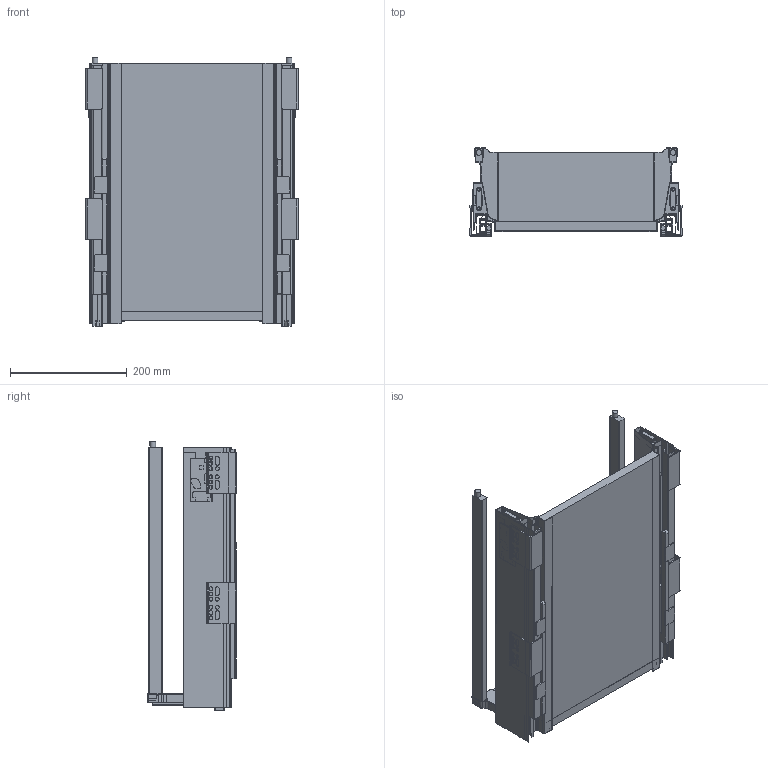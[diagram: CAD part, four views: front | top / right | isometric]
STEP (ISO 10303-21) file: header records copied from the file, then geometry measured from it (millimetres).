
FILE_DESCRIPTION(/* description */ (''),/* implementation_level */ '2;1');
FILE_NAME(/* name */ 'D:\$Workingspace\Designs\Katalog\Cadsoft\GTV Prwadnice II\PB-D(KW)\PB-D(KW)\MB bryły 3D\PB-KW-KPL450B.stp',/* time_stamp */ '2017-02-09T09:51:01+01:00',/* author */ ('tomaszw'),/* organization */ (''),/* preprocessor_version */ 'ST-DEVELOPER v16.1',/* originating_system */ 'Autodesk Inventor 2016',/* authorisation */ '');
FILE_SCHEMA (('CONFIG_CONTROL_DESIGN'));
Length unit declared in the file: millimetre
Products named in the file (18): PB-D-PRSPO-CL-450; PB-D-PRSPO-CR-450; PB-D-PRSPO-DL-450; PB-D-PRSPO-DR-450; PB-D-PR-DWL-450; PB-D-PR-DWR-450; PB-D-PRSPO-450; PB-MK-450-L; PB-MK-450-R; MF-01; MB; MST-M-R; MST-M-L; PB-D-RELKW450; PB-D-RELKW450-2; B_M; A_450; PB-D(KW)
Assembly tree (19 placements, depth 3):
  PB-D(KW)
    PB-D-PRSPO-450
      PB-D-PRSPO-CL-450
      PB-D-PRSPO-CR-450
      PB-D-PRSPO-DL-450
      PB-D-PRSPO-DR-450
      PB-D-PR-DWL-450
      PB-D-PR-DWR-450
    PB-MK-450-L
    PB-MK-450-R
    MF-01  x2
    MB  x2
    MST-M-R
    MST-M-L
    PB-D-RELKW450
    PB-D-RELKW450-2
    B_M
    A_450
Bounding box: 364 x 152.25 x 461.5 mm (x, y, z)
Volume: 4125693.1 mm3; surface area: 1454324.9 mm2
Topology: 30 solids, 30 shells, 1414 faces, 3746 edges, 2382 vertices
Faces by surface type: plane 764, cylinder 498, torus 70, cone 48, sphere 32, bspline 2
Full cylindrical faces by diameter (mm): 4 x4, 6.5 x32, 8 x2, 10 x2
Entity records: 41919 total; most frequent: DIRECTION 7042, CARTESIAN_POINT 7023, ORIENTED_EDGE 6820, EDGE_CURVE 3408, LINE 2420, VECTOR 2420, AXIS2_PLACEMENT_3D 2311, VERTEX_POINT 2234
